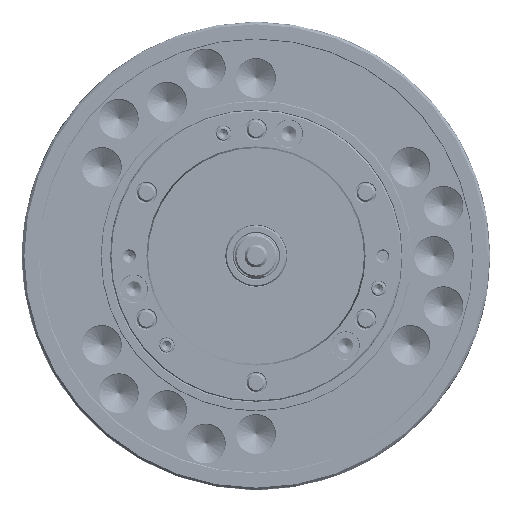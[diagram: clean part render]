
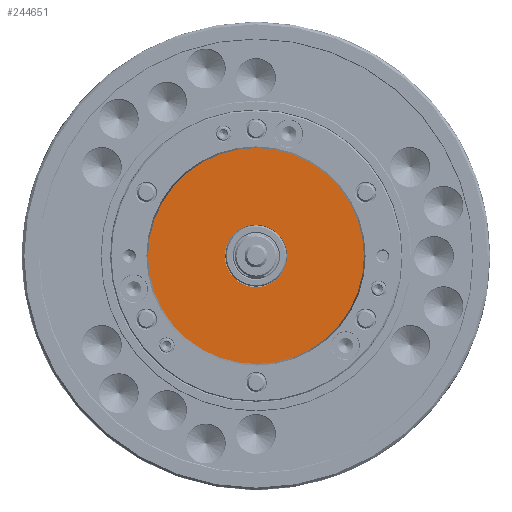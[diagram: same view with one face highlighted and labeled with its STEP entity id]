
A CAD part, left-side view. The second image highlights one B-rep face of the part: STEP entity #244651.
In plain terms, the highlighted planar face has unit normal (-1, 0, 0).
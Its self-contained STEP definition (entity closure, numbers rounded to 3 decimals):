
#10002 = DIRECTION ( 'NONE',  ( 0., 0., 1. ) ) ;
#18492 = PLANE ( 'NONE',  #251737 ) ;
#21674 = DIRECTION ( 'NONE',  ( -1., 0., 0. ) ) ;
#23055 = CARTESIAN_POINT ( 'NONE',  ( -145., 0., 0. ) ) ;
#26779 = VERTEX_POINT ( 'NONE', #82706 ) ;
#36545 = EDGE_CURVE ( 'NONE', #26779, #258642, #189561, .T. ) ;
#37411 = VERTEX_POINT ( 'NONE', #164627 ) ;
#40276 = CARTESIAN_POINT ( 'NONE',  ( -145., 0., 0. ) ) ;
#44823 = DIRECTION ( 'NONE',  ( 1., 0., 0. ) ) ;
#50359 = CARTESIAN_POINT ( 'NONE',  ( -145., 0., 0. ) ) ;
#56050 = EDGE_LOOP ( 'NONE', ( #132286, #81125 ) ) ;
#57990 = AXIS2_PLACEMENT_3D ( 'NONE', #115773, #200713, #10002 ) ;
#63215 = CIRCLE ( 'NONE', #227801, 40.6 ) ;
#64324 = FACE_BOUND ( 'NONE', #56050, .T. ) ;
#66765 = CIRCLE ( 'NONE', #124618, 140.7 ) ;
#81125 = ORIENTED_EDGE ( 'NONE', *, *, #36545, .F. ) ;
#82706 = CARTESIAN_POINT ( 'NONE',  ( -145., 0., -40.6 ) ) ;
#98150 = CIRCLE ( 'NONE', #57990, 140.7 ) ;
#113345 = CARTESIAN_POINT ( 'NONE',  ( -145., 0., -140.7 ) ) ;
#115773 = CARTESIAN_POINT ( 'NONE',  ( -145., 0., 0. ) ) ;
#124280 = FACE_OUTER_BOUND ( 'NONE', #255586, .T. ) ;
#124618 = AXIS2_PLACEMENT_3D ( 'NONE', #23055, #21674, #275002 ) ;
#128449 = EDGE_CURVE ( 'NONE', #258642, #26779, #63215, .T. ) ;
#131939 = ORIENTED_EDGE ( 'NONE', *, *, #197009, .T. ) ;
#132286 = ORIENTED_EDGE ( 'NONE', *, *, #128449, .F. ) ;
#146557 = CARTESIAN_POINT ( 'NONE',  ( -145., 140.7, 0. ) ) ;
#147505 = DIRECTION ( 'NONE',  ( 0., 0., 1. ) ) ;
#157535 = EDGE_CURVE ( 'NONE', #224482, #37411, #66765, .T. ) ;
#164627 = CARTESIAN_POINT ( 'NONE',  ( -145., 0., 140.7 ) ) ;
#167302 = AXIS2_PLACEMENT_3D ( 'NONE', #40276, #254638, #147505 ) ;
#172895 = DIRECTION ( 'NONE',  ( 0., 0., -1. ) ) ;
#189561 = CIRCLE ( 'NONE', #167302, 40.6 ) ;
#197009 = EDGE_CURVE ( 'NONE', #37411, #224482, #98150, .T. ) ;
#200713 = DIRECTION ( 'NONE',  ( -1., 0., 0. ) ) ;
#216222 = CARTESIAN_POINT ( 'NONE',  ( -145., 0., 40.6 ) ) ;
#224482 = VERTEX_POINT ( 'NONE', #113345 ) ;
#227801 = AXIS2_PLACEMENT_3D ( 'NONE', #50359, #237004, #262001 ) ;
#237004 = DIRECTION ( 'NONE',  ( -1., 0., 0. ) ) ;
#244651 = ADVANCED_FACE ( 'NONE', ( #64324, #124280 ), #18492, .F. ) ;
#251737 = AXIS2_PLACEMENT_3D ( 'NONE', #146557, #44823, #172895 ) ;
#254638 = DIRECTION ( 'NONE',  ( -1., 0., 0. ) ) ;
#255586 = EDGE_LOOP ( 'NONE', ( #131939, #272958 ) ) ;
#258642 = VERTEX_POINT ( 'NONE', #216222 ) ;
#262001 = DIRECTION ( 'NONE',  ( 0., 0., 1. ) ) ;
#272958 = ORIENTED_EDGE ( 'NONE', *, *, #157535, .T. ) ;
#275002 = DIRECTION ( 'NONE',  ( 0., 0., 1. ) ) ;
